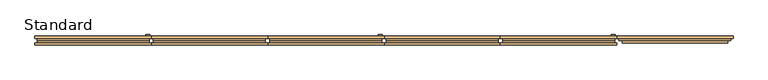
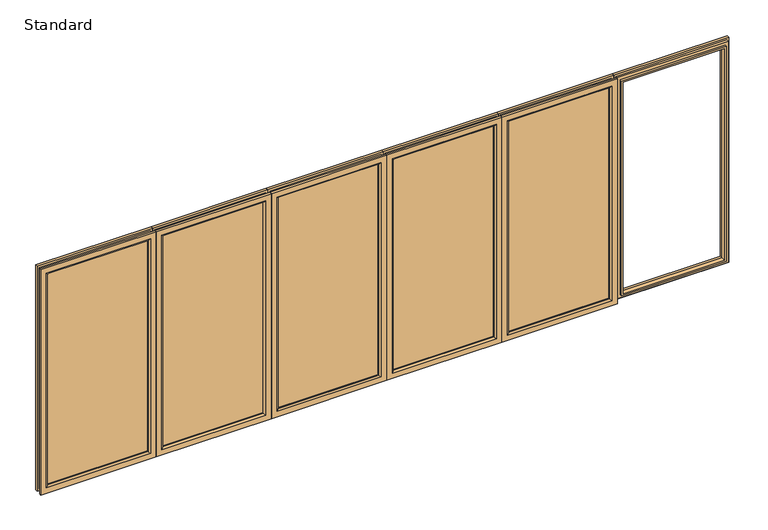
"""IFC4 building model written with IfcOpenShell, lengths in millimetres: door geometry, SMARTS_Visofold1000 : Standard."""

from ifc_helpers import new_model, si_unit, point, frame, frame_2d, origin, place, context, project, spatial, polyline, circle_curve, ellipse_curve, trimmed, segment, composite_curve, outline, extrude, faceted_brep, source, transform, mapped, element, save
from ifc_brep_helpers import plane_surface, cylinder_surface, advanced_brep


def standard_890da7bf(model_context):
    return source(origin(), model_context, "Body", "SolidModel", [
        extrude(outline(composite_curve([segment(polyline([(1228.0996413, -1936.0), (1040.0996413, -1936.0)]), True, "CONTINUOUS"), segment(trimmed(circle_curve(frame_2d((1040.0996413, -1920.0)), 16.0), [point((1040.0996413, -1936.0))], [point((1040.0996413, -1904.0))], False, "CARTESIAN"), True, "CONTINUOUS"), segment(polyline([(1040.0996413, -1904.0), (1228.0996413, -1904.0)]), True, "CONTINUOUS"), segment(trimmed(circle_curve(frame_2d((1228.0996413, -1920.0)), 16.0), [point((1228.0996413, -1904.0))], [point((1228.0996413, -1936.0))], False, "CARTESIAN"), True, "CONTINUOUS")], self_intersect=False)), frame((0.0, 75.0, 0.0), z_axis=(0.0, 1.0, 0.0), x_axis=(0.0, 0.0, 1.0)), (0.0, 0.0, 1.0), 10.0),
        extrude(outline(polyline([(45.0, -1935.0), (1955.0, -1935.0), (1955.0, -2815.0), (45.0, -2815.0), (45.0, -1935.0)]), holes=[polyline([(1939.5, -1950.5), (60.5, -1950.5), (60.5, -2799.5), (1939.5, -2799.5), (1939.5, -1950.5)])]), frame((0.0, 17.4, 0.0), z_axis=(0.0, 1.0, 0.0), x_axis=(0.0, 0.0, 1.0)), (0.0, 0.0, 1.0), 35.0),
        faceted_brep([(-1890.0, 74.4, 0.0), (-1890.0, 74.4, 2000.0), (-1890.0, 52.4, 2000.0), (-1890.0, 52.4, 0.0), (-1950.5, 52.4, 60.5), (-1950.5, 52.4, 1939.5), (-1950.5, 74.4, 1939.5), (-1950.5, 74.4, 60.5), (-2860.0, 74.4, 2000.0), (-2860.0, 52.4, 2000.0), (-2799.5, 52.4, 1939.5), (-2799.5, 74.4, 1939.5), (-2860.0, 74.4, 0.0), (-2860.0, 52.4, 0.0), (-2799.5, 52.4, 60.5), (-2799.5, 74.4, 60.5), (-1907.8691481, 34.8, 17.8691481), (-1907.8691481, 34.8, 1982.1308519), (-2842.1308519, 34.8, 1982.1308519), (-2842.1308519, 34.8, 17.8691481), (-1935.0, 34.8, 1955.0), (-1935.0, 34.8, 45.0), (-2815.0, 34.8, 45.0), (-2815.0, 34.8, 1955.0), (-1907.8691481, 52.4, 17.8691481), (-1907.8691481, 52.4, 1982.1308519), (-1935.0, 52.4, 1955.0), (-1935.0, 52.4, 45.0), (-2842.1308519, 52.4, 1982.1308519), (-2815.0, 52.4, 1955.0), (-2842.1308519, 52.4, 17.8691481), (-2815.0, 52.4, 45.0)], [[[0, 1, 2, 3]], [[4, 5, 6, 7]], [[1, 8, 9, 2]], [[5, 10, 11, 6]], [[8, 12, 13, 9]], [[10, 14, 15, 11]], [[12, 0, 3, 13]], [[1, 0, 12, 8], [7, 6, 11, 15]], [[14, 4, 7, 15]], [[16, 17, 18, 19], [20, 21, 22, 23]], [[24, 25, 17, 16]], [[21, 20, 26, 27]], [[25, 28, 18, 17]], [[20, 23, 29, 26]], [[28, 30, 19, 18]], [[23, 22, 31, 29]], [[30, 24, 16, 19]], [[3, 2, 9, 13], [25, 24, 30, 28]], [[27, 26, 29, 31], [5, 4, 14, 10]], [[22, 21, 27, 31]]]),
        advanced_brep(
        [(-1950.5, 13.3, 60.5), (-1950.5, 13.3, 1939.5), (-1950.5, 17.4, 1939.5), (-1950.5, 17.4, 60.5), (-1890.0, 17.4, 0.0), (-1890.0, 17.4, 2000.0), (-1890.0, 0.0, 2000.0), (-1890.0, 0.0, 0.0), (-2799.5, 13.3, 1939.5), (-2799.5, 17.4, 1939.5), (-2860.0, 17.4, 2000.0), (-2860.0, 0.0, 2000.0), (-2799.5, 13.3, 60.5), (-2799.5, 17.4, 60.5), (-2860.0, 17.4, 0.0), (-2860.0, 0.0, 0.0), (-1937.2, 0.0, 1952.8), (-1937.2, 0.0, 47.2), (-2812.8, 0.0, 47.2), (-2812.8, 0.0, 1952.8), (-1907.8691481, 34.8, 17.8691481), (-1907.8691481, 34.8, 1982.1308519), (-1907.8691481, 17.4, 1982.1308519), (-1907.8691481, 17.4, 17.8691481), (-2842.1308519, 34.8, 1982.1308519), (-2842.1308519, 17.4, 1982.1308519), (-2842.1308519, 34.8, 17.8691481), (-2842.1308519, 17.4, 17.8691481), (-1935.0, 17.4, 45.0), (-1935.0, 17.4, 1955.0), (-1935.0, 34.8, 1955.0), (-1935.0, 34.8, 45.0), (-2815.0, 17.4, 1955.0), (-2815.0, 34.8, 1955.0), (-2815.0, 17.4, 45.0), (-2815.0, 34.8, 45.0)],
        [
            (0, 1),
            (1, 2),
            (2, 3),
            (3, 0),
            (4, 5),
            (5, 6),
            (6, 7),
            (7, 4),
            (1, 8),
            (8, 9),
            (9, 2),
            (5, 10),
            (10, 11),
            (11, 6),
            (8, 12),
            (12, 13),
            (13, 9),
            (10, 14),
            (14, 15),
            (15, 11),
            (12, 0),
            (3, 13),
            (15, 7),
            (16, 17),
            (17, 18),
            (18, 19),
            (19, 16),
            (14, 4),
            (16, 1, ellipse_curve(frame((-1937.2, 13.3, 1952.8), z_axis=(0.7071067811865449, 0.0, -0.70710678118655), x_axis=(-0.7071067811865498, 0.0, -0.7071067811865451)), 18.8090404, 13.3)),
            (0, 17, ellipse_curve(frame((-1937.2, 13.3, 47.2), z_axis=(0.70710678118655, 0.0, 0.7071067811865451), x_axis=(0.7071067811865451, 0.0, -0.7071067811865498)), 18.8090404, 13.3)),
            (19, 8, ellipse_curve(frame((-2812.8, 13.3, 1952.8), z_axis=(0.7071067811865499, 0.0, 0.707106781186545), x_axis=(0.7071067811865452, 0.0, -0.7071067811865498)), 18.8090404, 13.3)),
            (18, 12, ellipse_curve(frame((-2812.8, 13.3, 47.2), z_axis=(-0.7071067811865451, 0.0, 0.7071067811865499), x_axis=(0.7071067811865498, 0.0, 0.7071067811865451)), 18.8090404, 13.3)),
            (20, 21),
            (21, 22),
            (22, 23),
            (23, 20),
            (21, 24),
            (24, 25),
            (25, 22),
            (24, 26),
            (26, 27),
            (27, 25),
            (27, 23),
            (26, 20),
            (28, 29),
            (29, 30),
            (30, 31),
            (31, 28),
            (29, 32),
            (32, 33),
            (33, 30),
            (32, 34),
            (34, 35),
            (35, 33),
            (34, 28),
            (31, 35),
        ],
        [
            plane_surface(frame((-1950.5, 17.4, 60.5), z_axis=(-1.0, 0.0, 0.0), x_axis=(0.0, 0.0, 1.0))),
            plane_surface(frame((-1890.0, 0.0, 0.0), z_axis=(1.0, 0.0, 0.0), x_axis=(0.0, 0.0, 1.0))),
            plane_surface(frame((-1950.5, 17.4, 1939.5), z_axis=(0.0, 0.0, -1.0), x_axis=(-1.0, 0.0, 0.0))),
            plane_surface(frame((-1890.0, 0.0, 2000.0), z_axis=(0.0, 0.0, 1.0), x_axis=(-1.0, 0.0, 0.0))),
            plane_surface(frame((-2799.5, 17.4, 1939.5), z_axis=(1.0, 0.0, 0.0), x_axis=(0.0, 0.0, -1.0))),
            plane_surface(frame((-2860.0, 0.0, 2000.0), z_axis=(-1.0, 0.0, 0.0), x_axis=(0.0, 0.0, -1.0))),
            plane_surface(frame((-2799.5, 17.4, 60.5), z_axis=(0.0, 0.0, 1.0), x_axis=(1.0, 0.0, 0.0))),
            plane_surface(frame((-2812.8, 0.0, 47.2), z_axis=(0.0, -1.0, 0.0), x_axis=(1.0, 0.0, 0.0))),
            plane_surface(frame((-2860.0, 0.0, 0.0), z_axis=(0.0, 0.0, -1.0), x_axis=(1.0, 0.0, 0.0))),
            cylinder_surface(frame((-1937.2, 13.3, 0.0), z_axis=(0.0, 0.0, -1.0), x_axis=(0.0, 1.0, 0.0)), 13.3),
            cylinder_surface(frame((-1890.0, 13.3, 1952.8), z_axis=(1.0, 0.0, 0.0), x_axis=(0.0, 1.0, 0.0)), 13.3),
            cylinder_surface(frame((-2812.8, 13.3, 2000.0), z_axis=(0.0, 0.0, 1.0), x_axis=(0.0, 1.0, 0.0)), 13.3),
            cylinder_surface(frame((-2860.0, 13.3, 47.2), z_axis=(-1.0, 0.0, 0.0), x_axis=(0.0, 1.0, 0.0)), 13.3),
            plane_surface(frame((-1907.8691481, 17.4, 17.8691481), z_axis=(1.0, 0.0, 0.0), x_axis=(0.0, 0.0, 1.0))),
            plane_surface(frame((-1907.8691481, 17.4, 1982.1308519), z_axis=(0.0, 0.0, 1.0), x_axis=(-1.0, 0.0, 0.0))),
            plane_surface(frame((-2842.1308519, 17.4, 1982.1308519), z_axis=(-1.0, 0.0, 0.0), x_axis=(0.0, 0.0, -1.0))),
            plane_surface(frame((-2860.0, 17.4, 0.0), z_axis=(0.0, 1.0, 0.0), x_axis=(1.0, 0.0, 0.0))),
            plane_surface(frame((-2842.1308519, 17.4, 17.8691481), z_axis=(0.0, 0.0, -1.0), x_axis=(1.0, 0.0, 0.0))),
            plane_surface(frame((-1935.0, 34.8, 45.0), z_axis=(-1.0, 0.0, 0.0), x_axis=(0.0, 0.0, 1.0))),
            plane_surface(frame((-1935.0, 34.8, 1955.0), z_axis=(0.0, 0.0, -1.0), x_axis=(-1.0, 0.0, 0.0))),
            plane_surface(frame((-2815.0, 34.8, 1955.0), z_axis=(1.0, 0.0, 0.0), x_axis=(0.0, 0.0, -1.0))),
            plane_surface(frame((-2815.0, 34.8, 45.0), z_axis=(0.0, 0.0, 1.0), x_axis=(1.0, 0.0, 0.0))),
            plane_surface(frame((-2815.0, 17.4, 45.0), z_axis=(0.0, 1.0, 0.0), x_axis=(1.0, 0.0, 0.0))),
            plane_surface(frame((-2842.1308519, 34.8, 17.8691481), z_axis=(0.0, 1.0, 0.0), x_axis=(1.0, 0.0, 0.0))),
        ],
        [
            (0, [[1, 2, 3, 4]]),
            (1, [[5, 6, 7, 8]]),
            (2, [[9, 10, 11, -2]]),
            (3, [[12, 13, 14, -6]]),
            (4, [[15, 16, 17, -10]]),
            (5, [[18, 19, 20, -13]]),
            (6, [[21, -4, 22, -16]]),
            (7, [[-7, -14, -20, 23], [24, 25, 26, 27]]),
            (8, [[28, -8, -23, -19]]),
            (9, [[-24, 29, -1, 30]]),
            (10, [[-27, 31, -9, -29]]),
            (11, [[-26, 32, -15, -31]]),
            (12, [[-25, -30, -21, -32]]),
            (13, [[33, 34, 35, 36]]),
            (14, [[37, 38, 39, -34]]),
            (15, [[40, 41, 42, -38]]),
            (16, [[-5, -28, -18, -12], [-35, -39, -42, 43]]),
            (17, [[44, -36, -43, -41]]),
            (18, [[45, 46, 47, 48]]),
            (19, [[49, 50, 51, -46]]),
            (20, [[52, 53, 54, -50]]),
            (21, [[55, -48, 56, -53]]),
            (22, [[-45, -55, -52, -49], [-3, -11, -17, -22]]),
            (23, [[-33, -44, -40, -37], [-47, -51, -54, -56]]),
        ],
    ),
        extrude(outline(polyline([(-1950.5, 50.1484783), (-1950.5, 21.4), (-2799.5, 21.4), (-2799.5, 50.1484783), (-1950.5, 50.1484783)])), frame((0.0, 0.0, 60.5), z_axis=(0.0, 0.0, 1.0), x_axis=(1.0, 0.0, 0.0)), (0.0, 0.0, 1.0), 1879.0),
        extrude(outline(polyline([(45.0, -1845.0), (45.0, -965.0), (1955.0, -965.0), (1955.0, -1845.0), (45.0, -1845.0)]), holes=[polyline([(1939.5, -1829.5), (1939.5, -980.5), (60.5, -980.5), (60.5, -1829.5), (1939.5, -1829.5)])]), frame((0.0, 17.4, 0.0), z_axis=(0.0, 1.0, 0.0), x_axis=(0.0, 0.0, 1.0)), (0.0, 0.0, 1.0), 35.0),
        faceted_brep([(-1890.0, 74.4, 0.0), (-1890.0, 52.4, 0.0), (-1890.0, 52.4, 2000.0), (-1890.0, 74.4, 2000.0), (-1829.5, 52.4, 60.5), (-1829.5, 74.4, 60.5), (-1829.5, 74.4, 1939.5), (-1829.5, 52.4, 1939.5), (-920.0, 52.4, 2000.0), (-920.0, 74.4, 2000.0), (-980.5, 74.4, 1939.5), (-980.5, 52.4, 1939.5), (-920.0, 52.4, 0.0), (-920.0, 74.4, 0.0), (-980.5, 74.4, 60.5), (-980.5, 52.4, 60.5), (-1872.1308519, 34.8, 17.8691481), (-937.8691481, 34.8, 17.8691481), (-937.8691481, 34.8, 1982.1308519), (-1872.1308519, 34.8, 1982.1308519), (-1845.0, 34.8, 1955.0), (-965.0, 34.8, 1955.0), (-965.0, 34.8, 45.0), (-1845.0, 34.8, 45.0), (-1872.1308519, 52.4, 17.8691481), (-1872.1308519, 52.4, 1982.1308519), (-1845.0, 52.4, 45.0), (-1845.0, 52.4, 1955.0), (-937.8691481, 52.4, 1982.1308519), (-965.0, 52.4, 1955.0), (-937.8691481, 52.4, 17.8691481), (-965.0, 52.4, 45.0)], [[[0, 1, 2, 3]], [[4, 5, 6, 7]], [[3, 2, 8, 9]], [[7, 6, 10, 11]], [[9, 8, 12, 13]], [[11, 10, 14, 15]], [[13, 12, 1, 0]], [[3, 9, 13, 0], [5, 14, 10, 6]], [[15, 14, 5, 4]], [[16, 17, 18, 19], [20, 21, 22, 23]], [[24, 16, 19, 25]], [[23, 26, 27, 20]], [[25, 19, 18, 28]], [[20, 27, 29, 21]], [[28, 18, 17, 30]], [[21, 29, 31, 22]], [[30, 17, 16, 24]], [[1, 12, 8, 2], [25, 28, 30, 24]], [[26, 31, 29, 27], [7, 11, 15, 4]], [[22, 31, 26, 23]]]),
        advanced_brep(
        [(-1829.5, 13.3, 60.5), (-1829.5, 17.4, 60.5), (-1829.5, 17.4, 1939.5), (-1829.5, 13.3, 1939.5), (-1890.0, 17.4, 0.0), (-1890.0, 0.0, 0.0), (-1890.0, 0.0, 2000.0), (-1890.0, 17.4, 2000.0), (-980.5, 17.4, 1939.5), (-980.5, 13.3, 1939.5), (-920.0, 0.0, 2000.0), (-920.0, 17.4, 2000.0), (-980.5, 17.4, 60.5), (-980.5, 13.3, 60.5), (-920.0, 0.0, 0.0), (-920.0, 17.4, 0.0), (-1842.8, 0.0, 1952.8), (-967.2, 0.0, 1952.8), (-967.2, 0.0, 47.2), (-1842.8, 0.0, 47.2), (-1872.1308519, 34.8, 17.8691481), (-1872.1308519, 17.4, 17.8691481), (-1872.1308519, 17.4, 1982.1308519), (-1872.1308519, 34.8, 1982.1308519), (-937.8691481, 17.4, 1982.1308519), (-937.8691481, 34.8, 1982.1308519), (-937.8691481, 17.4, 17.8691481), (-937.8691481, 34.8, 17.8691481), (-1845.0, 17.4, 45.0), (-1845.0, 34.8, 45.0), (-1845.0, 34.8, 1955.0), (-1845.0, 17.4, 1955.0), (-965.0, 34.8, 1955.0), (-965.0, 17.4, 1955.0), (-965.0, 34.8, 45.0), (-965.0, 17.4, 45.0)],
        [
            (0, 1),
            (1, 2),
            (2, 3),
            (3, 0),
            (4, 5),
            (5, 6),
            (6, 7),
            (7, 4),
            (2, 8),
            (8, 9),
            (9, 3),
            (6, 10),
            (10, 11),
            (11, 7),
            (8, 12),
            (12, 13),
            (13, 9),
            (10, 14),
            (14, 15),
            (15, 11),
            (12, 1),
            (0, 13),
            (5, 14),
            (16, 17),
            (17, 18),
            (18, 19),
            (19, 16),
            (4, 15),
            (19, 0, ellipse_curve(frame((-1842.8, 13.3, 47.2), z_axis=(-0.70710678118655, 0.0, 0.7071067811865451), x_axis=(-0.7071067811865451, 0.0, -0.7071067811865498)), 18.8090404, 13.3)),
            (3, 16, ellipse_curve(frame((-1842.8, 13.3, 1952.8), z_axis=(-0.7071067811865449, 0.0, -0.70710678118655), x_axis=(0.7071067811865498, 0.0, -0.7071067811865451)), 18.8090404, 13.3)),
            (9, 17, ellipse_curve(frame((-967.2, 13.3, 1952.8), z_axis=(-0.7071067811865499, 0.0, 0.707106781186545), x_axis=(-0.7071067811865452, 0.0, -0.7071067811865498)), 18.8090404, 13.3)),
            (13, 18, ellipse_curve(frame((-967.2, 13.3, 47.2), z_axis=(0.7071067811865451, 0.0, 0.7071067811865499), x_axis=(-0.7071067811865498, 0.0, 0.7071067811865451)), 18.8090404, 13.3)),
            (20, 21),
            (21, 22),
            (22, 23),
            (23, 20),
            (22, 24),
            (24, 25),
            (25, 23),
            (24, 26),
            (26, 27),
            (27, 25),
            (21, 26),
            (20, 27),
            (28, 29),
            (29, 30),
            (30, 31),
            (31, 28),
            (30, 32),
            (32, 33),
            (33, 31),
            (32, 34),
            (34, 35),
            (35, 33),
            (34, 29),
            (28, 35),
        ],
        [
            plane_surface(frame((-1829.5, 17.4, 60.5), z_axis=(1.0, 0.0, 0.0), x_axis=(0.0, 0.0, 1.0))),
            plane_surface(frame((-1890.0, 0.0, 0.0), z_axis=(-1.0, 0.0, 0.0), x_axis=(0.0, 0.0, 1.0))),
            plane_surface(frame((-1829.5, 17.4, 1939.5), z_axis=(0.0, 0.0, -1.0), x_axis=(1.0, 0.0, 0.0))),
            plane_surface(frame((-1890.0, 0.0, 2000.0), z_axis=(0.0, 0.0, 1.0), x_axis=(1.0, 0.0, 0.0))),
            plane_surface(frame((-980.5, 17.4, 1939.5), z_axis=(-1.0, 0.0, 0.0), x_axis=(0.0, 0.0, -1.0))),
            plane_surface(frame((-920.0, 0.0, 2000.0), z_axis=(1.0, 0.0, 0.0), x_axis=(0.0, 0.0, -1.0))),
            plane_surface(frame((-980.5, 17.4, 60.5), z_axis=(0.0, 0.0, 1.0), x_axis=(-1.0, 0.0, 0.0))),
            plane_surface(frame((-967.2, 0.0, 47.2), z_axis=(0.0, -1.0, 0.0), x_axis=(-1.0, 0.0, 0.0))),
            plane_surface(frame((-920.0, 0.0, 0.0), z_axis=(0.0, 0.0, -1.0), x_axis=(-1.0, 0.0, 0.0))),
            cylinder_surface(frame((-1842.8, 13.3, 0.0), z_axis=(0.0, 0.0, -1.0), x_axis=(0.0, 1.0, 0.0)), 13.3),
            cylinder_surface(frame((-1890.0, 13.3, 1952.8), z_axis=(-1.0, 0.0, 0.0), x_axis=(0.0, 1.0, 0.0)), 13.3),
            cylinder_surface(frame((-967.2, 13.3, 2000.0), z_axis=(0.0, 0.0, 1.0), x_axis=(0.0, 1.0, 0.0)), 13.3),
            cylinder_surface(frame((-920.0, 13.3, 47.2), z_axis=(1.0, 0.0, 0.0), x_axis=(0.0, 1.0, 0.0)), 13.3),
            plane_surface(frame((-1872.1308519, 17.4, 17.8691481), z_axis=(-1.0, 0.0, 0.0), x_axis=(0.0, 0.0, 1.0))),
            plane_surface(frame((-1872.1308519, 17.4, 1982.1308519), z_axis=(0.0, 0.0, 1.0), x_axis=(1.0, 0.0, 0.0))),
            plane_surface(frame((-937.8691481, 17.4, 1982.1308519), z_axis=(1.0, 0.0, 0.0), x_axis=(0.0, 0.0, -1.0))),
            plane_surface(frame((-920.0, 17.4, 0.0), z_axis=(0.0, 1.0, 0.0), x_axis=(-1.0, 0.0, 0.0))),
            plane_surface(frame((-937.8691481, 17.4, 17.8691481), z_axis=(0.0, 0.0, -1.0), x_axis=(-1.0, 0.0, 0.0))),
            plane_surface(frame((-1845.0, 34.8, 45.0), z_axis=(1.0, 0.0, 0.0), x_axis=(0.0, 0.0, 1.0))),
            plane_surface(frame((-1845.0, 34.8, 1955.0), z_axis=(0.0, 0.0, -1.0), x_axis=(1.0, 0.0, 0.0))),
            plane_surface(frame((-965.0, 34.8, 1955.0), z_axis=(-1.0, 0.0, 0.0), x_axis=(0.0, 0.0, -1.0))),
            plane_surface(frame((-965.0, 34.8, 45.0), z_axis=(0.0, 0.0, 1.0), x_axis=(-1.0, 0.0, 0.0))),
            plane_surface(frame((-965.0, 17.4, 45.0), z_axis=(0.0, 1.0, 0.0), x_axis=(-1.0, 0.0, 0.0))),
            plane_surface(frame((-937.8691481, 34.8, 17.8691481), z_axis=(0.0, 1.0, 0.0), x_axis=(-1.0, 0.0, 0.0))),
        ],
        [
            (0, [[1, 2, 3, 4]]),
            (1, [[5, 6, 7, 8]]),
            (2, [[-3, 9, 10, 11]]),
            (3, [[-7, 12, 13, 14]]),
            (4, [[-10, 15, 16, 17]]),
            (5, [[-13, 18, 19, 20]]),
            (6, [[-16, 21, -1, 22]]),
            (7, [[23, -18, -12, -6], [24, 25, 26, 27]]),
            (8, [[-19, -23, -5, 28]]),
            (9, [[29, -4, 30, -27]]),
            (10, [[-30, -11, 31, -24]]),
            (11, [[-31, -17, 32, -25]]),
            (12, [[-32, -22, -29, -26]]),
            (13, [[33, 34, 35, 36]]),
            (14, [[-35, 37, 38, 39]]),
            (15, [[-38, 40, 41, 42]]),
            (16, [[-14, -20, -28, -8], [43, -40, -37, -34]]),
            (17, [[-41, -43, -33, 44]]),
            (18, [[45, 46, 47, 48]]),
            (19, [[-47, 49, 50, 51]]),
            (20, [[-50, 52, 53, 54]]),
            (21, [[-53, 55, -45, 56]]),
            (22, [[-51, -54, -56, -48], [-21, -15, -9, -2]]),
            (23, [[-39, -42, -44, -36], [-55, -52, -49, -46]]),
        ],
    ),
        extrude(outline(polyline([(-1829.5, 50.1484783), (-980.5, 50.1484783), (-980.5, 21.4), (-1829.5, 21.4), (-1829.5, 50.1484783)])), frame((0.0, 0.0, 60.5), z_axis=(0.0, 0.0, 1.0), x_axis=(1.0, 0.0, 0.0)), (0.0, 0.0, 1.0), 1879.0),
        extrude(outline(composite_curve([segment(polyline([(1228.0996413, 4.0), (1040.0996413, 4.0)]), True, "CONTINUOUS"), segment(trimmed(circle_curve(frame_2d((1040.0996413, 20.0)), 16.0), [point((1040.0996413, 4.0))], [point((1040.0996413, 36.0))], False, "CARTESIAN"), True, "CONTINUOUS"), segment(polyline([(1040.0996413, 36.0), (1228.0996413, 36.0)]), True, "CONTINUOUS"), segment(trimmed(circle_curve(frame_2d((1228.0996413, 20.0)), 16.0), [point((1228.0996413, 36.0))], [point((1228.0996413, 4.0))], False, "CARTESIAN"), True, "CONTINUOUS")], self_intersect=False)), frame((0.0, 75.0, 0.0), z_axis=(0.0, 1.0, 0.0), x_axis=(0.0, 0.0, 1.0)), (0.0, 0.0, 1.0), 10.0),
        extrude(outline(polyline([(45.0, 5.0), (1955.0, 5.0), (1955.0, -875.0), (45.0, -875.0), (45.0, 5.0)]), holes=[polyline([(1939.5, -10.5), (60.5, -10.5), (60.5, -859.5), (1939.5, -859.5), (1939.5, -10.5)])]), frame((0.0, 17.4, 0.0), z_axis=(0.0, 1.0, 0.0), x_axis=(0.0, 0.0, 1.0)), (0.0, 0.0, 1.0), 35.0),
        faceted_brep([(50.0, 74.4, 0.0), (50.0, 74.4, 2000.0), (50.0, 52.4, 2000.0), (50.0, 52.4, 0.0), (-10.5, 52.4, 60.5), (-10.5, 52.4, 1939.5), (-10.5, 74.4, 1939.5), (-10.5, 74.4, 60.5), (-920.0, 74.4, 2000.0), (-920.0, 52.4, 2000.0), (-859.5, 52.4, 1939.5), (-859.5, 74.4, 1939.5), (-920.0, 74.4, 0.0), (-920.0, 52.4, 0.0), (-859.5, 52.4, 60.5), (-859.5, 74.4, 60.5), (32.1308519, 34.8, 17.8691481), (32.1308519, 34.8, 1982.1308519), (-902.1308519, 34.8, 1982.1308519), (-902.1308519, 34.8, 17.8691481), (5.0, 34.8, 1955.0), (5.0, 34.8, 45.0), (-875.0, 34.8, 45.0), (-875.0, 34.8, 1955.0), (32.1308519, 52.4, 17.8691481), (32.1308519, 52.4, 1982.1308519), (5.0, 52.4, 1955.0), (5.0, 52.4, 45.0), (-902.1308519, 52.4, 1982.1308519), (-875.0, 52.4, 1955.0), (-902.1308519, 52.4, 17.8691481), (-875.0, 52.4, 45.0)], [[[0, 1, 2, 3]], [[4, 5, 6, 7]], [[1, 8, 9, 2]], [[5, 10, 11, 6]], [[8, 12, 13, 9]], [[10, 14, 15, 11]], [[12, 0, 3, 13]], [[1, 0, 12, 8], [7, 6, 11, 15]], [[14, 4, 7, 15]], [[16, 17, 18, 19], [20, 21, 22, 23]], [[24, 25, 17, 16]], [[21, 20, 26, 27]], [[25, 28, 18, 17]], [[20, 23, 29, 26]], [[28, 30, 19, 18]], [[23, 22, 31, 29]], [[30, 24, 16, 19]], [[3, 2, 9, 13], [25, 24, 30, 28]], [[27, 26, 29, 31], [5, 4, 14, 10]], [[22, 21, 27, 31]]]),
        advanced_brep(
        [(-10.5, 13.3, 60.5), (-10.5, 13.3, 1939.5), (-10.5, 17.4, 1939.5), (-10.5, 17.4, 60.5), (50.0, 17.4, 0.0), (50.0, 17.4, 2000.0), (50.0, 0.0, 2000.0), (50.0, 0.0, 0.0), (-859.5, 13.3, 1939.5), (-859.5, 17.4, 1939.5), (-920.0, 17.4, 2000.0), (-920.0, 0.0, 2000.0), (-859.5, 13.3, 60.5), (-859.5, 17.4, 60.5), (-920.0, 17.4, 0.0), (-920.0, 0.0, 0.0), (2.8, 0.0, 1952.8), (2.8, 0.0, 47.2), (-872.8, 0.0, 47.2), (-872.8, 0.0, 1952.8), (32.1308519, 34.8, 17.8691481), (32.1308519, 34.8, 1982.1308519), (32.1308519, 17.4, 1982.1308519), (32.1308519, 17.4, 17.8691481), (-902.1308519, 34.8, 1982.1308519), (-902.1308519, 17.4, 1982.1308519), (-902.1308519, 34.8, 17.8691481), (-902.1308519, 17.4, 17.8691481), (5.0, 17.4, 45.0), (5.0, 17.4, 1955.0), (5.0, 34.8, 1955.0), (5.0, 34.8, 45.0), (-875.0, 17.4, 1955.0), (-875.0, 34.8, 1955.0), (-875.0, 17.4, 45.0), (-875.0, 34.8, 45.0)],
        [
            (0, 1),
            (1, 2),
            (2, 3),
            (3, 0),
            (4, 5),
            (5, 6),
            (6, 7),
            (7, 4),
            (1, 8),
            (8, 9),
            (9, 2),
            (5, 10),
            (10, 11),
            (11, 6),
            (8, 12),
            (12, 13),
            (13, 9),
            (10, 14),
            (14, 15),
            (15, 11),
            (12, 0),
            (3, 13),
            (15, 7),
            (16, 17),
            (17, 18),
            (18, 19),
            (19, 16),
            (14, 4),
            (16, 1, ellipse_curve(frame((2.8, 13.3, 1952.8), z_axis=(0.7071067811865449, 0.0, -0.70710678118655), x_axis=(-0.7071067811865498, 0.0, -0.7071067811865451)), 18.8090404, 13.3)),
            (0, 17, ellipse_curve(frame((2.8, 13.3, 47.2), z_axis=(0.70710678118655, 0.0, 0.7071067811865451), x_axis=(0.7071067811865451, 0.0, -0.7071067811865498)), 18.8090404, 13.3)),
            (19, 8, ellipse_curve(frame((-872.8, 13.3, 1952.8), z_axis=(0.7071067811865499, 0.0, 0.707106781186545), x_axis=(0.7071067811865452, 0.0, -0.7071067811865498)), 18.8090404, 13.3)),
            (18, 12, ellipse_curve(frame((-872.8, 13.3, 47.2), z_axis=(-0.7071067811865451, 0.0, 0.7071067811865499), x_axis=(0.7071067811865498, 0.0, 0.7071067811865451)), 18.8090404, 13.3)),
            (20, 21),
            (21, 22),
            (22, 23),
            (23, 20),
            (21, 24),
            (24, 25),
            (25, 22),
            (24, 26),
            (26, 27),
            (27, 25),
            (27, 23),
            (26, 20),
            (28, 29),
            (29, 30),
            (30, 31),
            (31, 28),
            (29, 32),
            (32, 33),
            (33, 30),
            (32, 34),
            (34, 35),
            (35, 33),
            (34, 28),
            (31, 35),
        ],
        [
            plane_surface(frame((-10.5, 17.4, 60.5), z_axis=(-1.0, 0.0, 0.0), x_axis=(0.0, 0.0, 1.0))),
            plane_surface(frame((50.0, 0.0, 0.0), z_axis=(1.0, 0.0, 0.0), x_axis=(0.0, 0.0, 1.0))),
            plane_surface(frame((-10.5, 17.4, 1939.5), z_axis=(0.0, 0.0, -1.0), x_axis=(-1.0, 0.0, 0.0))),
            plane_surface(frame((50.0, 0.0, 2000.0), z_axis=(0.0, 0.0, 1.0), x_axis=(-1.0, 0.0, 0.0))),
            plane_surface(frame((-859.5, 17.4, 1939.5), z_axis=(1.0, 0.0, 0.0), x_axis=(0.0, 0.0, -1.0))),
            plane_surface(frame((-920.0, 0.0, 2000.0), z_axis=(-1.0, 0.0, 0.0), x_axis=(0.0, 0.0, -1.0))),
            plane_surface(frame((-859.5, 17.4, 60.5), z_axis=(0.0, 0.0, 1.0), x_axis=(1.0, 0.0, 0.0))),
            plane_surface(frame((-872.8, 0.0, 47.2), z_axis=(0.0, -1.0, 0.0), x_axis=(1.0, 0.0, 0.0))),
            plane_surface(frame((-920.0, 0.0, 0.0), z_axis=(0.0, 0.0, -1.0), x_axis=(1.0, 0.0, 0.0))),
            cylinder_surface(frame((2.8, 13.3, 0.0), z_axis=(0.0, 0.0, -1.0), x_axis=(0.0, 1.0, 0.0)), 13.3),
            cylinder_surface(frame((50.0, 13.3, 1952.8), z_axis=(1.0, 0.0, 0.0), x_axis=(0.0, 1.0, 0.0)), 13.3),
            cylinder_surface(frame((-872.8, 13.3, 2000.0), z_axis=(0.0, 0.0, 1.0), x_axis=(0.0, 1.0, 0.0)), 13.3),
            cylinder_surface(frame((-920.0, 13.3, 47.2), z_axis=(-1.0, 0.0, 0.0), x_axis=(0.0, 1.0, 0.0)), 13.3),
            plane_surface(frame((32.1308519, 17.4, 17.8691481), z_axis=(1.0, 0.0, 0.0), x_axis=(0.0, 0.0, 1.0))),
            plane_surface(frame((32.1308519, 17.4, 1982.1308519), z_axis=(0.0, 0.0, 1.0), x_axis=(-1.0, 0.0, 0.0))),
            plane_surface(frame((-902.1308519, 17.4, 1982.1308519), z_axis=(-1.0, 0.0, 0.0), x_axis=(0.0, 0.0, -1.0))),
            plane_surface(frame((-920.0, 17.4, 0.0), z_axis=(0.0, 1.0, 0.0), x_axis=(1.0, 0.0, 0.0))),
            plane_surface(frame((-902.1308519, 17.4, 17.8691481), z_axis=(0.0, 0.0, -1.0), x_axis=(1.0, 0.0, 0.0))),
            plane_surface(frame((5.0, 34.8, 45.0), z_axis=(-1.0, 0.0, 0.0), x_axis=(0.0, 0.0, 1.0))),
            plane_surface(frame((5.0, 34.8, 1955.0), z_axis=(0.0, 0.0, -1.0), x_axis=(-1.0, 0.0, 0.0))),
            plane_surface(frame((-875.0, 34.8, 1955.0), z_axis=(1.0, 0.0, 0.0), x_axis=(0.0, 0.0, -1.0))),
            plane_surface(frame((-875.0, 34.8, 45.0), z_axis=(0.0, 0.0, 1.0), x_axis=(1.0, 0.0, 0.0))),
            plane_surface(frame((-875.0, 17.4, 45.0), z_axis=(0.0, 1.0, 0.0), x_axis=(1.0, 0.0, 0.0))),
            plane_surface(frame((-902.1308519, 34.8, 17.8691481), z_axis=(0.0, 1.0, 0.0), x_axis=(1.0, 0.0, 0.0))),
        ],
        [
            (0, [[1, 2, 3, 4]]),
            (1, [[5, 6, 7, 8]]),
            (2, [[9, 10, 11, -2]]),
            (3, [[12, 13, 14, -6]]),
            (4, [[15, 16, 17, -10]]),
            (5, [[18, 19, 20, -13]]),
            (6, [[21, -4, 22, -16]]),
            (7, [[-7, -14, -20, 23], [24, 25, 26, 27]]),
            (8, [[28, -8, -23, -19]]),
            (9, [[-24, 29, -1, 30]]),
            (10, [[-27, 31, -9, -29]]),
            (11, [[-26, 32, -15, -31]]),
            (12, [[-25, -30, -21, -32]]),
            (13, [[33, 34, 35, 36]]),
            (14, [[37, 38, 39, -34]]),
            (15, [[40, 41, 42, -38]]),
            (16, [[-5, -28, -18, -12], [-35, -39, -42, 43]]),
            (17, [[44, -36, -43, -41]]),
            (18, [[45, 46, 47, 48]]),
            (19, [[49, 50, 51, -46]]),
            (20, [[52, 53, 54, -50]]),
            (21, [[55, -48, 56, -53]]),
            (22, [[-45, -55, -52, -49], [-3, -11, -17, -22]]),
            (23, [[-33, -44, -40, -37], [-47, -51, -54, -56]]),
        ],
    ),
        extrude(outline(polyline([(-10.5, 50.1484783), (-10.5, 21.4), (-859.5, 21.4), (-859.5, 50.1484783), (-10.5, 50.1484783)])), frame((0.0, 0.0, 60.5), z_axis=(0.0, 0.0, 1.0), x_axis=(1.0, 0.0, 0.0)), (0.0, 0.0, 1.0), 1879.0),
        extrude(outline(composite_curve([segment(polyline([(1228.0996413, 1944.0), (1040.0996413, 1944.0)]), True, "CONTINUOUS"), segment(trimmed(circle_curve(frame_2d((1040.0996413, 1960.0)), 16.0), [point((1040.0996413, 1944.0))], [point((1040.0996413, 1976.0))], False, "CARTESIAN"), True, "CONTINUOUS"), segment(polyline([(1040.0996413, 1976.0), (1228.0996413, 1976.0)]), True, "CONTINUOUS"), segment(trimmed(circle_curve(frame_2d((1228.0996413, 1960.0)), 16.0), [point((1228.0996413, 1976.0))], [point((1228.0996413, 1944.0))], False, "CARTESIAN"), True, "CONTINUOUS")], self_intersect=False)), frame((0.0, 75.0, 0.0), z_axis=(0.0, 1.0, 0.0), x_axis=(0.0, 0.0, 1.0)), (0.0, 0.0, 1.0), 10.0),
        extrude(outline(polyline([(45.0, 1945.0), (1955.0, 1945.0), (1955.0, 1065.0), (45.0, 1065.0), (45.0, 1945.0)]), holes=[polyline([(1939.5, 1929.5), (60.5, 1929.5), (60.5, 1080.5), (1939.5, 1080.5), (1939.5, 1929.5)])]), frame((0.0, 17.4, 0.0), z_axis=(0.0, 1.0, 0.0), x_axis=(0.0, 0.0, 1.0)), (0.0, 0.0, 1.0), 35.0),
        faceted_brep([(1990.0, 74.4, 0.0), (1990.0, 74.4, 2000.0), (1990.0, 52.4, 2000.0), (1990.0, 52.4, 0.0), (1929.5, 52.4, 60.5), (1929.5, 52.4, 1939.5), (1929.5, 74.4, 1939.5), (1929.5, 74.4, 60.5), (1020.0, 74.4, 2000.0), (1020.0, 52.4, 2000.0), (1080.5, 52.4, 1939.5), (1080.5, 74.4, 1939.5), (1020.0, 74.4, 0.0), (1020.0, 52.4, 0.0), (1080.5, 52.4, 60.5), (1080.5, 74.4, 60.5), (1972.1308519, 34.8, 17.8691481), (1972.1308519, 34.8, 1982.1308519), (1037.8691481, 34.8, 1982.1308519), (1037.8691481, 34.8, 17.8691481), (1945.0, 34.8, 1955.0), (1945.0, 34.8, 45.0), (1065.0, 34.8, 45.0), (1065.0, 34.8, 1955.0), (1972.1308519, 52.4, 17.8691481), (1972.1308519, 52.4, 1982.1308519), (1945.0, 52.4, 1955.0), (1945.0, 52.4, 45.0), (1037.8691481, 52.4, 1982.1308519), (1065.0, 52.4, 1955.0), (1037.8691481, 52.4, 17.8691481), (1065.0, 52.4, 45.0)], [[[0, 1, 2, 3]], [[4, 5, 6, 7]], [[1, 8, 9, 2]], [[5, 10, 11, 6]], [[8, 12, 13, 9]], [[10, 14, 15, 11]], [[12, 0, 3, 13]], [[1, 0, 12, 8], [7, 6, 11, 15]], [[14, 4, 7, 15]], [[16, 17, 18, 19], [20, 21, 22, 23]], [[24, 25, 17, 16]], [[21, 20, 26, 27]], [[25, 28, 18, 17]], [[20, 23, 29, 26]], [[28, 30, 19, 18]], [[23, 22, 31, 29]], [[30, 24, 16, 19]], [[3, 2, 9, 13], [25, 24, 30, 28]], [[27, 26, 29, 31], [5, 4, 14, 10]], [[22, 21, 27, 31]]]),
        advanced_brep(
        [(1929.5, 13.3, 60.5), (1929.5, 13.3, 1939.5), (1929.5, 17.4, 1939.5), (1929.5, 17.4, 60.5), (1990.0, 17.4, 0.0), (1990.0, 17.4, 2000.0), (1990.0, 0.0, 2000.0), (1990.0, 0.0, 0.0), (1080.5, 13.3, 1939.5), (1080.5, 17.4, 1939.5), (1020.0, 17.4, 2000.0), (1020.0, 0.0, 2000.0), (1080.5, 13.3, 60.5), (1080.5, 17.4, 60.5), (1020.0, 17.4, 0.0), (1020.0, 0.0, 0.0), (1942.8, 0.0, 1952.8), (1942.8, 0.0, 47.2), (1067.2, 0.0, 47.2), (1067.2, 0.0, 1952.8), (1972.1308519, 34.8, 17.8691481), (1972.1308519, 34.8, 1982.1308519), (1972.1308519, 17.4, 1982.1308519), (1972.1308519, 17.4, 17.8691481), (1037.8691481, 34.8, 1982.1308519), (1037.8691481, 17.4, 1982.1308519), (1037.8691481, 34.8, 17.8691481), (1037.8691481, 17.4, 17.8691481), (1945.0, 17.4, 45.0), (1945.0, 17.4, 1955.0), (1945.0, 34.8, 1955.0), (1945.0, 34.8, 45.0), (1065.0, 17.4, 1955.0), (1065.0, 34.8, 1955.0), (1065.0, 17.4, 45.0), (1065.0, 34.8, 45.0)],
        [
            (0, 1),
            (1, 2),
            (2, 3),
            (3, 0),
            (4, 5),
            (5, 6),
            (6, 7),
            (7, 4),
            (1, 8),
            (8, 9),
            (9, 2),
            (5, 10),
            (10, 11),
            (11, 6),
            (8, 12),
            (12, 13),
            (13, 9),
            (10, 14),
            (14, 15),
            (15, 11),
            (12, 0),
            (3, 13),
            (15, 7),
            (16, 17),
            (17, 18),
            (18, 19),
            (19, 16),
            (14, 4),
            (16, 1, ellipse_curve(frame((1942.8, 13.3, 1952.8), z_axis=(0.7071067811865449, 0.0, -0.70710678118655), x_axis=(-0.7071067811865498, 0.0, -0.7071067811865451)), 18.8090404, 13.3)),
            (0, 17, ellipse_curve(frame((1942.8, 13.3, 47.2), z_axis=(0.70710678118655, 0.0, 0.7071067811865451), x_axis=(0.7071067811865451, 0.0, -0.7071067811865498)), 18.8090404, 13.3)),
            (19, 8, ellipse_curve(frame((1067.2, 13.3, 1952.8), z_axis=(0.7071067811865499, 0.0, 0.707106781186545), x_axis=(0.7071067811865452, 0.0, -0.7071067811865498)), 18.8090404, 13.3)),
            (18, 12, ellipse_curve(frame((1067.2, 13.3, 47.2), z_axis=(-0.7071067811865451, 0.0, 0.7071067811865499), x_axis=(0.7071067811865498, 0.0, 0.7071067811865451)), 18.8090404, 13.3)),
            (20, 21),
            (21, 22),
            (22, 23),
            (23, 20),
            (21, 24),
            (24, 25),
            (25, 22),
            (24, 26),
            (26, 27),
            (27, 25),
            (27, 23),
            (26, 20),
            (28, 29),
            (29, 30),
            (30, 31),
            (31, 28),
            (29, 32),
            (32, 33),
            (33, 30),
            (32, 34),
            (34, 35),
            (35, 33),
            (34, 28),
            (31, 35),
        ],
        [
            plane_surface(frame((1929.5, 17.4, 60.5), z_axis=(-1.0, 0.0, 0.0), x_axis=(0.0, 0.0, 1.0))),
            plane_surface(frame((1990.0, 0.0, 0.0), z_axis=(1.0, 0.0, 0.0), x_axis=(0.0, 0.0, 1.0))),
            plane_surface(frame((1929.5, 17.4, 1939.5), z_axis=(0.0, 0.0, -1.0), x_axis=(-1.0, 0.0, 0.0))),
            plane_surface(frame((1990.0, 0.0, 2000.0), z_axis=(0.0, 0.0, 1.0), x_axis=(-1.0, 0.0, 0.0))),
            plane_surface(frame((1080.5, 17.4, 1939.5), z_axis=(1.0, 0.0, 0.0), x_axis=(0.0, 0.0, -1.0))),
            plane_surface(frame((1020.0, 0.0, 2000.0), z_axis=(-1.0, 0.0, 0.0), x_axis=(0.0, 0.0, -1.0))),
            plane_surface(frame((1080.5, 17.4, 60.5), z_axis=(0.0, 0.0, 1.0), x_axis=(1.0, 0.0, 0.0))),
            plane_surface(frame((1067.2, 0.0, 47.2), z_axis=(0.0, -1.0, 0.0), x_axis=(1.0, 0.0, 0.0))),
            plane_surface(frame((1020.0, 0.0, 0.0), z_axis=(0.0, 0.0, -1.0), x_axis=(1.0, 0.0, 0.0))),
            cylinder_surface(frame((1942.8, 13.3, 0.0), z_axis=(0.0, 0.0, -1.0), x_axis=(0.0, 1.0, 0.0)), 13.3),
            cylinder_surface(frame((1990.0, 13.3, 1952.8), z_axis=(1.0, 0.0, 0.0), x_axis=(0.0, 1.0, 0.0)), 13.3),
            cylinder_surface(frame((1067.2, 13.3, 2000.0), z_axis=(0.0, 0.0, 1.0), x_axis=(0.0, 1.0, 0.0)), 13.3),
            cylinder_surface(frame((1020.0, 13.3, 47.2), z_axis=(-1.0, 0.0, 0.0), x_axis=(0.0, 1.0, 0.0)), 13.3),
            plane_surface(frame((1972.1308519, 17.4, 17.8691481), z_axis=(1.0, 0.0, 0.0), x_axis=(0.0, 0.0, 1.0))),
            plane_surface(frame((1972.1308519, 17.4, 1982.1308519), z_axis=(0.0, 0.0, 1.0), x_axis=(-1.0, 0.0, 0.0))),
            plane_surface(frame((1037.8691481, 17.4, 1982.1308519), z_axis=(-1.0, 0.0, 0.0), x_axis=(0.0, 0.0, -1.0))),
            plane_surface(frame((1020.0, 17.4, 0.0), z_axis=(0.0, 1.0, 0.0), x_axis=(1.0, 0.0, 0.0))),
            plane_surface(frame((1037.8691481, 17.4, 17.8691481), z_axis=(0.0, 0.0, -1.0), x_axis=(1.0, 0.0, 0.0))),
            plane_surface(frame((1945.0, 34.8, 45.0), z_axis=(-1.0, 0.0, 0.0), x_axis=(0.0, 0.0, 1.0))),
            plane_surface(frame((1945.0, 34.8, 1955.0), z_axis=(0.0, 0.0, -1.0), x_axis=(-1.0, 0.0, 0.0))),
            plane_surface(frame((1065.0, 34.8, 1955.0), z_axis=(1.0, 0.0, 0.0), x_axis=(0.0, 0.0, -1.0))),
            plane_surface(frame((1065.0, 34.8, 45.0), z_axis=(0.0, 0.0, 1.0), x_axis=(1.0, 0.0, 0.0))),
            plane_surface(frame((1065.0, 17.4, 45.0), z_axis=(0.0, 1.0, 0.0), x_axis=(1.0, 0.0, 0.0))),
            plane_surface(frame((1037.8691481, 34.8, 17.8691481), z_axis=(0.0, 1.0, 0.0), x_axis=(1.0, 0.0, 0.0))),
        ],
        [
            (0, [[1, 2, 3, 4]]),
            (1, [[5, 6, 7, 8]]),
            (2, [[9, 10, 11, -2]]),
            (3, [[12, 13, 14, -6]]),
            (4, [[15, 16, 17, -10]]),
            (5, [[18, 19, 20, -13]]),
            (6, [[21, -4, 22, -16]]),
            (7, [[-7, -14, -20, 23], [24, 25, 26, 27]]),
            (8, [[28, -8, -23, -19]]),
            (9, [[-24, 29, -1, 30]]),
            (10, [[-27, 31, -9, -29]]),
            (11, [[-26, 32, -15, -31]]),
            (12, [[-25, -30, -21, -32]]),
            (13, [[33, 34, 35, 36]]),
            (14, [[37, 38, 39, -34]]),
            (15, [[40, 41, 42, -38]]),
            (16, [[-5, -28, -18, -12], [-35, -39, -42, 43]]),
            (17, [[44, -36, -43, -41]]),
            (18, [[45, 46, 47, 48]]),
            (19, [[49, 50, 51, -46]]),
            (20, [[52, 53, 54, -50]]),
            (21, [[55, -48, 56, -53]]),
            (22, [[-45, -55, -52, -49], [-3, -11, -17, -22]]),
            (23, [[-33, -44, -40, -37], [-47, -51, -54, -56]]),
        ],
    ),
        extrude(outline(polyline([(1929.5, 50.1484783), (1929.5, 21.4), (1080.5, 21.4), (1080.5, 50.1484783), (1929.5, 50.1484783)])), frame((0.0, 0.0, 60.5), z_axis=(0.0, 0.0, 1.0), x_axis=(1.0, 0.0, 0.0)), (0.0, 0.0, 1.0), 1879.0),
        extrude(outline(polyline([(45.0, 95.0), (45.0, 975.0), (1955.0, 975.0), (1955.0, 95.0), (45.0, 95.0)]), holes=[polyline([(1939.5, 110.5), (1939.5, 959.5), (60.5, 959.5), (60.5, 110.5), (1939.5, 110.5)])]), frame((0.0, 17.4, 0.0), z_axis=(0.0, 1.0, 0.0), x_axis=(0.0, 0.0, 1.0)), (0.0, 0.0, 1.0), 35.0),
        faceted_brep([(50.0, 74.4, 0.0), (50.0, 52.4, 0.0), (50.0, 52.4, 2000.0), (50.0, 74.4, 2000.0), (110.5, 52.4, 60.5), (110.5, 74.4, 60.5), (110.5, 74.4, 1939.5), (110.5, 52.4, 1939.5), (1020.0, 52.4, 2000.0), (1020.0, 74.4, 2000.0), (959.5, 74.4, 1939.5), (959.5, 52.4, 1939.5), (1020.0, 52.4, 0.0), (1020.0, 74.4, 0.0), (959.5, 74.4, 60.5), (959.5, 52.4, 60.5), (67.8691481, 34.8, 17.8691481), (1002.1308519, 34.8, 17.8691481), (1002.1308519, 34.8, 1982.1308519), (67.8691481, 34.8, 1982.1308519), (95.0, 34.8, 1955.0), (975.0, 34.8, 1955.0), (975.0, 34.8, 45.0), (95.0, 34.8, 45.0), (67.8691481, 52.4, 17.8691481), (67.8691481, 52.4, 1982.1308519), (95.0, 52.4, 45.0), (95.0, 52.4, 1955.0), (1002.1308519, 52.4, 1982.1308519), (975.0, 52.4, 1955.0), (1002.1308519, 52.4, 17.8691481), (975.0, 52.4, 45.0)], [[[0, 1, 2, 3]], [[4, 5, 6, 7]], [[3, 2, 8, 9]], [[7, 6, 10, 11]], [[9, 8, 12, 13]], [[11, 10, 14, 15]], [[13, 12, 1, 0]], [[3, 9, 13, 0], [5, 14, 10, 6]], [[15, 14, 5, 4]], [[16, 17, 18, 19], [20, 21, 22, 23]], [[24, 16, 19, 25]], [[23, 26, 27, 20]], [[25, 19, 18, 28]], [[20, 27, 29, 21]], [[28, 18, 17, 30]], [[21, 29, 31, 22]], [[30, 17, 16, 24]], [[1, 12, 8, 2], [25, 28, 30, 24]], [[26, 31, 29, 27], [7, 11, 15, 4]], [[22, 31, 26, 23]]]),
        advanced_brep(
        [(110.5, 13.3, 60.5), (110.5, 17.4, 60.5), (110.5, 17.4, 1939.5), (110.5, 13.3, 1939.5), (50.0, 17.4, 0.0), (50.0, 0.0, 0.0), (50.0, 0.0, 2000.0), (50.0, 17.4, 2000.0), (959.5, 17.4, 1939.5), (959.5, 13.3, 1939.5), (1020.0, 0.0, 2000.0), (1020.0, 17.4, 2000.0), (959.5, 17.4, 60.5), (959.5, 13.3, 60.5), (1020.0, 0.0, 0.0), (1020.0, 17.4, 0.0), (97.2, 0.0, 1952.8), (972.8, 0.0, 1952.8), (972.8, 0.0, 47.2), (97.2, 0.0, 47.2), (67.8691481, 34.8, 17.8691481), (67.8691481, 17.4, 17.8691481), (67.8691481, 17.4, 1982.1308519), (67.8691481, 34.8, 1982.1308519), (1002.1308519, 17.4, 1982.1308519), (1002.1308519, 34.8, 1982.1308519), (1002.1308519, 17.4, 17.8691481), (1002.1308519, 34.8, 17.8691481), (95.0, 17.4, 45.0), (95.0, 34.8, 45.0), (95.0, 34.8, 1955.0), (95.0, 17.4, 1955.0), (975.0, 34.8, 1955.0), (975.0, 17.4, 1955.0), (975.0, 34.8, 45.0), (975.0, 17.4, 45.0)],
        [
            (0, 1),
            (1, 2),
            (2, 3),
            (3, 0),
            (4, 5),
            (5, 6),
            (6, 7),
            (7, 4),
            (2, 8),
            (8, 9),
            (9, 3),
            (6, 10),
            (10, 11),
            (11, 7),
            (8, 12),
            (12, 13),
            (13, 9),
            (10, 14),
            (14, 15),
            (15, 11),
            (12, 1),
            (0, 13),
            (5, 14),
            (16, 17),
            (17, 18),
            (18, 19),
            (19, 16),
            (4, 15),
            (19, 0, ellipse_curve(frame((97.2, 13.3, 47.2), z_axis=(-0.70710678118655, 0.0, 0.7071067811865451), x_axis=(-0.7071067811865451, 0.0, -0.7071067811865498)), 18.8090404, 13.3)),
            (3, 16, ellipse_curve(frame((97.2, 13.3, 1952.8), z_axis=(-0.7071067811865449, 0.0, -0.70710678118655), x_axis=(0.7071067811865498, 0.0, -0.7071067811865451)), 18.8090404, 13.3)),
            (9, 17, ellipse_curve(frame((972.8, 13.3, 1952.8), z_axis=(-0.7071067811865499, 0.0, 0.707106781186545), x_axis=(-0.7071067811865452, 0.0, -0.7071067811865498)), 18.8090404, 13.3)),
            (13, 18, ellipse_curve(frame((972.8, 13.3, 47.2), z_axis=(0.7071067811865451, 0.0, 0.7071067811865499), x_axis=(-0.7071067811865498, 0.0, 0.7071067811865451)), 18.8090404, 13.3)),
            (20, 21),
            (21, 22),
            (22, 23),
            (23, 20),
            (22, 24),
            (24, 25),
            (25, 23),
            (24, 26),
            (26, 27),
            (27, 25),
            (21, 26),
            (20, 27),
            (28, 29),
            (29, 30),
            (30, 31),
            (31, 28),
            (30, 32),
            (32, 33),
            (33, 31),
            (32, 34),
            (34, 35),
            (35, 33),
            (34, 29),
            (28, 35),
        ],
        [
            plane_surface(frame((110.5, 17.4, 60.5), z_axis=(1.0, 0.0, 0.0), x_axis=(0.0, 0.0, 1.0))),
            plane_surface(frame((50.0, 0.0, 0.0), z_axis=(-1.0, 0.0, 0.0), x_axis=(0.0, 0.0, 1.0))),
            plane_surface(frame((110.5, 17.4, 1939.5), z_axis=(0.0, 0.0, -1.0), x_axis=(1.0, 0.0, 0.0))),
            plane_surface(frame((50.0, 0.0, 2000.0), z_axis=(0.0, 0.0, 1.0), x_axis=(1.0, 0.0, 0.0))),
            plane_surface(frame((959.5, 17.4, 1939.5), z_axis=(-1.0, 0.0, 0.0), x_axis=(0.0, 0.0, -1.0))),
            plane_surface(frame((1020.0, 0.0, 2000.0), z_axis=(1.0, 0.0, 0.0), x_axis=(0.0, 0.0, -1.0))),
            plane_surface(frame((959.5, 17.4, 60.5), z_axis=(0.0, 0.0, 1.0), x_axis=(-1.0, 0.0, 0.0))),
            plane_surface(frame((972.8, 0.0, 47.2), z_axis=(0.0, -1.0, 0.0), x_axis=(-1.0, 0.0, 0.0))),
            plane_surface(frame((1020.0, 0.0, 0.0), z_axis=(0.0, 0.0, -1.0), x_axis=(-1.0, 0.0, 0.0))),
            cylinder_surface(frame((97.2, 13.3, 0.0), z_axis=(0.0, 0.0, -1.0), x_axis=(0.0, 1.0, 0.0)), 13.3),
            cylinder_surface(frame((50.0, 13.3, 1952.8), z_axis=(-1.0, 0.0, 0.0), x_axis=(0.0, 1.0, 0.0)), 13.3),
            cylinder_surface(frame((972.8, 13.3, 2000.0), z_axis=(0.0, 0.0, 1.0), x_axis=(0.0, 1.0, 0.0)), 13.3),
            cylinder_surface(frame((1020.0, 13.3, 47.2), z_axis=(1.0, 0.0, 0.0), x_axis=(0.0, 1.0, 0.0)), 13.3),
            plane_surface(frame((67.8691481, 17.4, 17.8691481), z_axis=(-1.0, 0.0, 0.0), x_axis=(0.0, 0.0, 1.0))),
            plane_surface(frame((67.8691481, 17.4, 1982.1308519), z_axis=(0.0, 0.0, 1.0), x_axis=(1.0, 0.0, 0.0))),
            plane_surface(frame((1002.1308519, 17.4, 1982.1308519), z_axis=(1.0, 0.0, 0.0), x_axis=(0.0, 0.0, -1.0))),
            plane_surface(frame((1020.0, 17.4, 0.0), z_axis=(0.0, 1.0, 0.0), x_axis=(-1.0, 0.0, 0.0))),
            plane_surface(frame((1002.1308519, 17.4, 17.8691481), z_axis=(0.0, 0.0, -1.0), x_axis=(-1.0, 0.0, 0.0))),
            plane_surface(frame((95.0, 34.8, 45.0), z_axis=(1.0, 0.0, 0.0), x_axis=(0.0, 0.0, 1.0))),
            plane_surface(frame((95.0, 34.8, 1955.0), z_axis=(0.0, 0.0, -1.0), x_axis=(1.0, 0.0, 0.0))),
            plane_surface(frame((975.0, 34.8, 1955.0), z_axis=(-1.0, 0.0, 0.0), x_axis=(0.0, 0.0, -1.0))),
            plane_surface(frame((975.0, 34.8, 45.0), z_axis=(0.0, 0.0, 1.0), x_axis=(-1.0, 0.0, 0.0))),
            plane_surface(frame((975.0, 17.4, 45.0), z_axis=(0.0, 1.0, 0.0), x_axis=(-1.0, 0.0, 0.0))),
            plane_surface(frame((1002.1308519, 34.8, 17.8691481), z_axis=(0.0, 1.0, 0.0), x_axis=(-1.0, 0.0, 0.0))),
        ],
        [
            (0, [[1, 2, 3, 4]]),
            (1, [[5, 6, 7, 8]]),
            (2, [[-3, 9, 10, 11]]),
            (3, [[-7, 12, 13, 14]]),
            (4, [[-10, 15, 16, 17]]),
            (5, [[-13, 18, 19, 20]]),
            (6, [[-16, 21, -1, 22]]),
            (7, [[23, -18, -12, -6], [24, 25, 26, 27]]),
            (8, [[-19, -23, -5, 28]]),
            (9, [[29, -4, 30, -27]]),
            (10, [[-30, -11, 31, -24]]),
            (11, [[-31, -17, 32, -25]]),
            (12, [[-32, -22, -29, -26]]),
            (13, [[33, 34, 35, 36]]),
            (14, [[-35, 37, 38, 39]]),
            (15, [[-38, 40, 41, 42]]),
            (16, [[-14, -20, -28, -8], [43, -40, -37, -34]]),
            (17, [[-41, -43, -33, 44]]),
            (18, [[45, 46, 47, 48]]),
            (19, [[-47, 49, 50, 51]]),
            (20, [[-50, 52, 53, 54]]),
            (21, [[-53, 55, -45, 56]]),
            (22, [[-51, -54, -56, -48], [-21, -15, -9, -2]]),
            (23, [[-39, -42, -44, -36], [-55, -52, -49, -46]]),
        ],
    ),
        extrude(outline(polyline([(110.5, 50.1484783), (959.5, 50.1484783), (959.5, 21.4), (110.5, 21.4), (110.5, 50.1484783)])), frame((0.0, 0.0, 60.5), z_axis=(0.0, 0.0, 1.0), x_axis=(1.0, 0.0, 0.0)), (0.0, 0.0, 1.0), 1879.0),
        extrude(outline(polyline([(45.0, 2035.0), (45.0, 2915.0), (1955.0, 2915.0), (1955.0, 2035.0), (45.0, 2035.0)]), holes=[polyline([(1939.5, 2050.5), (1939.5, 2899.5), (60.5, 2899.5), (60.5, 2050.5), (1939.5, 2050.5)])]), frame((0.0, 17.4, 0.0), z_axis=(0.0, 1.0, 0.0), x_axis=(0.0, 0.0, 1.0)), (0.0, 0.0, 1.0), 35.0),
        faceted_brep([(1990.0, 74.4, 0.0), (1990.0, 52.4, 0.0), (1990.0, 52.4, 2000.0), (1990.0, 74.4, 2000.0), (2050.5, 52.4, 60.5), (2050.5, 74.4, 60.5), (2050.5, 74.4, 1939.5), (2050.5, 52.4, 1939.5), (2960.0, 74.4, 0.0), (2960.0, 52.4, 0.0), (2960.0, 52.4, 2000.0), (2960.0, 74.4, 2000.0), (2899.5, 74.4, 1939.5), (2899.5, 52.4, 1939.5), (2899.5, 74.4, 60.5), (2899.5, 52.4, 60.5), (2007.8691481, 34.8, 17.8691481), (2942.1308519, 34.8, 17.8691481), (2942.1308519, 34.8, 1982.1308519), (2007.8691481, 34.8, 1982.1308519), (2035.0, 34.8, 1955.0), (2915.0, 34.8, 1955.0), (2915.0, 34.8, 45.0), (2035.0, 34.8, 45.0), (2007.8691481, 52.4, 17.8691481), (2007.8691481, 52.4, 1982.1308519), (2035.0, 52.4, 45.0), (2035.0, 52.4, 1955.0), (2942.1308519, 52.4, 1982.1308519), (2915.0, 52.4, 1955.0), (2942.1308519, 52.4, 17.8691481), (2915.0, 52.4, 45.0)], [[[0, 1, 2, 3]], [[4, 5, 6, 7]], [[8, 9, 1, 0]], [[3, 2, 10, 11]], [[7, 6, 12, 13]], [[11, 10, 9, 8]], [[13, 12, 14, 15]], [[3, 11, 8, 0], [5, 14, 12, 6]], [[15, 14, 5, 4]], [[16, 17, 18, 19], [20, 21, 22, 23]], [[24, 16, 19, 25]], [[23, 26, 27, 20]], [[25, 19, 18, 28]], [[20, 27, 29, 21]], [[28, 18, 17, 30]], [[21, 29, 31, 22]], [[30, 17, 16, 24]], [[1, 9, 10, 2], [25, 28, 30, 24]], [[26, 31, 29, 27], [7, 13, 15, 4]], [[22, 31, 26, 23]]]),
    ])


if __name__ == "__main__":
    model = new_model("IFC4")
    model_context = context("Model", 3, world=origin())
    ifc_project = project(units=[si_unit("LENGTHUNIT", "METRE", prefix="MILLI")], contexts=[model_context])
    site = spatial("IfcSite", under=ifc_project)
    building = spatial("IfcBuilding", under=site)
    placement = place(None, origin())
    standard_shape = standard_890da7bf(model_context)
    element("IfcDoor", 1, ObjectType="SMARTS_Visofold1000 : Standard", at=placement, inside=building, context=model_context, shape_type="MappedRepresentation", body=[
        mapped(standard_shape, transform((0.0, 0.0, 0.0), x_axis=(1.0, 0.0, 0.0), y_axis=(0.0, 1.0, 0.0), z_axis=(0.0, 0.0, 1.0))),
    ])
    save(model, "model.ifc")
